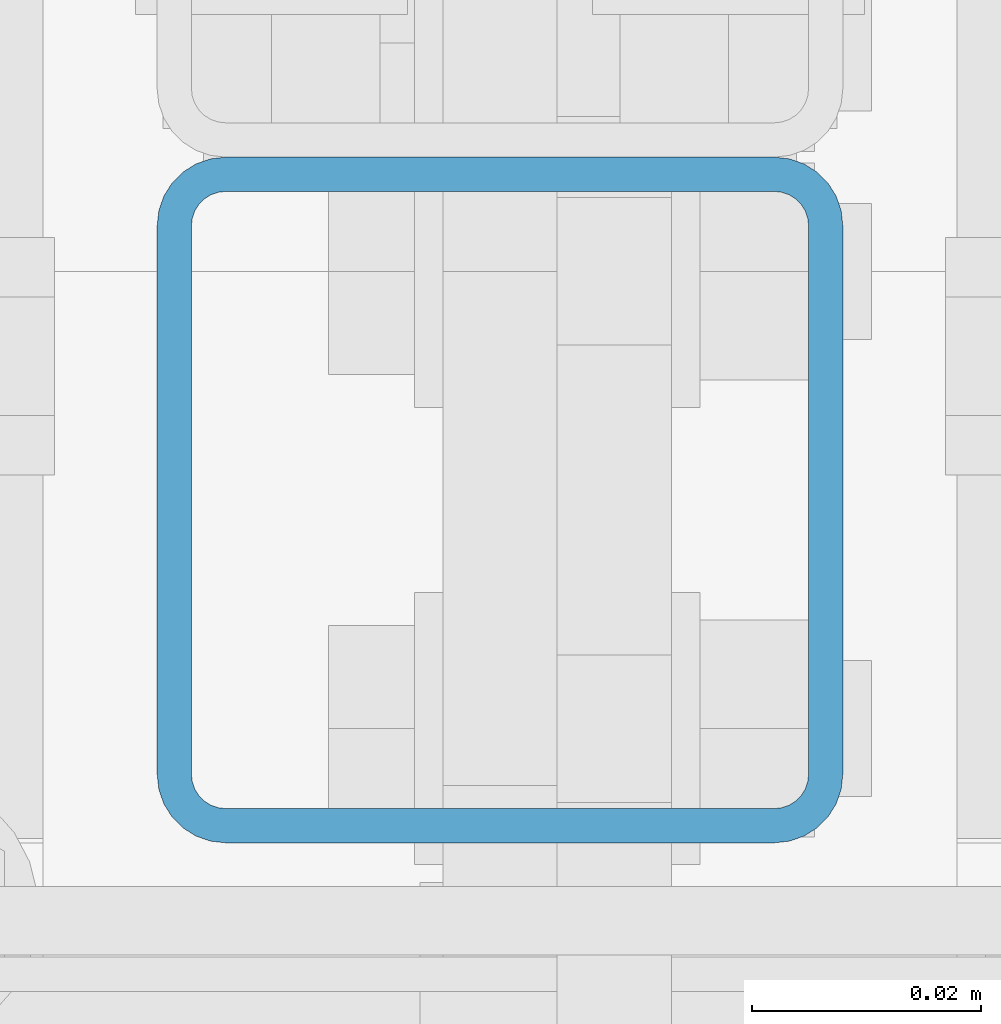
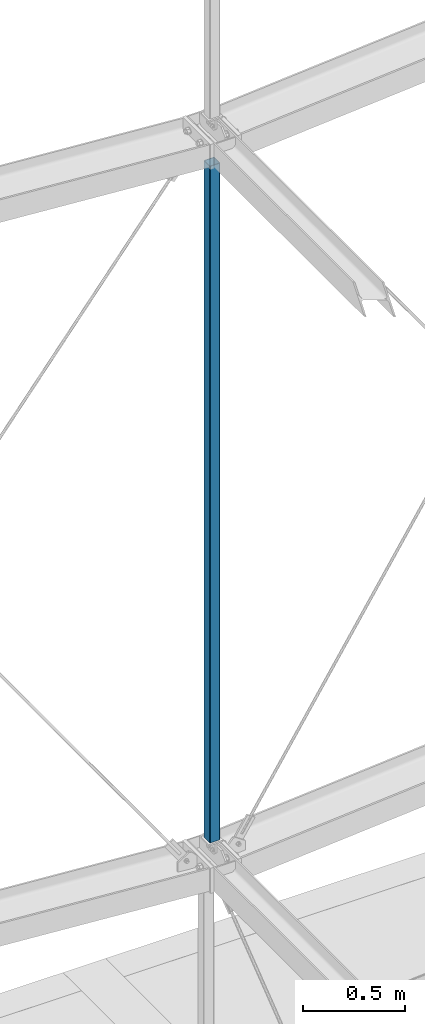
# One storey, part 23 of 271: 1 beam, 1 element without a shape of its own.
"""IFC2X3 building model written with IfcOpenShell, lengths in millimetres."""

from ifc_helpers import new_model, si_unit, frame, origin_with_axes, origin_2d_with_axis, place, context, subcontext, project, spatial, hollow_rectangle, extrude, clip, halfspace, material, type_object, element, aggregate, save


model = new_model("IFC2X3")

# Units and contexts
model_context = context("Model", 3, precision=1e-05, world=origin_with_axes())
body_context = subcontext(model_context, "Body", "Model", "MODEL_VIEW")
ifc_project = project(units=[si_unit("LENGTHUNIT", "METRE", prefix="MILLI"), si_unit("AREAUNIT", "SQUARE_METRE"), si_unit("VOLUMEUNIT", "CUBIC_METRE"), si_unit("MASSUNIT", "GRAM", prefix="KILO"), si_unit("TIMEUNIT", "SECOND"), si_unit("PLANEANGLEUNIT", "RADIAN"), si_unit("SOLIDANGLEUNIT", "STERADIAN"), si_unit("THERMODYNAMICTEMPERATUREUNIT", "DEGREE_CELSIUS"), si_unit("LUMINOUSINTENSITYUNIT", "LUMEN")], contexts=[model_context])

# Site, building, storey
site_placement = place(None, origin_with_axes())
site = spatial("IfcSite", under=ifc_project, at=site_placement, Name="Undefined", CompositionType="ELEMENT")
building_placement = place(site_placement, origin_with_axes())
building = spatial("IfcBuilding", under=site, at=building_placement, Name="Undefined", CompositionType="ELEMENT")
storey_placement = place(building_placement, origin_with_axes())
storey = spatial("IfcBuildingStorey", under=building, at=storey_placement, Name="Undefined", CompositionType="ELEMENT", Elevation=0.0)

# Assembly, beam
assembly_placement = place(storey_placement, origin_with_axes())
assembly = element("IfcElementAssembly", 1, at=assembly_placement, inside=storey, AssemblyPlace="NOTDEFINED", PredefinedType="RIGID_FRAME")
ifc_material = material(Name="STEEL/S355JR")
beam_type = type_object("IfcBeamType", Name="SHS60*3", PredefinedType="NOTDEFINED")
beam_placement = place(assembly_placement, frame((6348.37568736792, 3704.92439872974, 1361.04999995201), z_axis=(0.0, 1.0, 0.0), x_axis=(0.0, 0.0, 1.0)))
beam = element("IfcBeam", 2, at=beam_placement, type_object=beam_type, material=ifc_material, Name="TĘŻNIK", ObjectType="SHS60*3", context=body_context, shape_type="Clipping", body=[
    clip(clip(extrude(hollow_rectangle(XDim=60.0, YDim=60.0, WallThickness=3.0, InnerFilletRadius=3.0, OuterFilletRadius=6.0, at=origin_2d_with_axis()), frame((4320.0, 0.0, 9.09494701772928e-13), z_axis=(-1.0, 0.0, 1.38777878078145e-17), x_axis=(0.0, -1.0, 0.0)), (0.0, 0.0, 1.0), 4320.0), halfspace(frame((4182.5499999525, 15.0, 0.0), z_axis=(-1.0, 0.0, 1.38777878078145e-17), x_axis=(0.0, 0.0, 1.0)), True)), halfspace(frame((144.0499999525, 15.0, 0.0), z_axis=(1.0, 0.0, 0.0), x_axis=(0.0, 0.0, -1.0)), True)),
])
aggregate(assembly, [beam])

save(model, "model.ifc")
